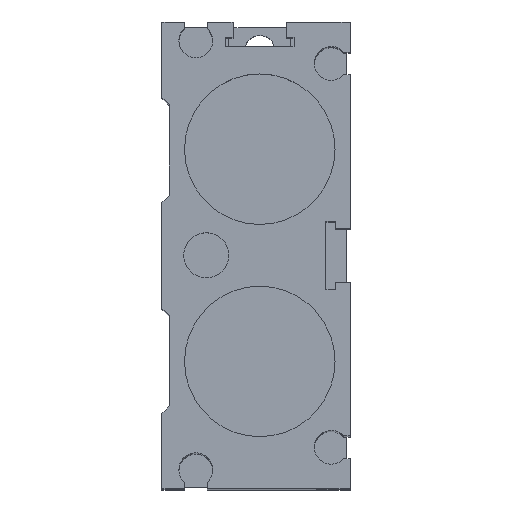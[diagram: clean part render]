
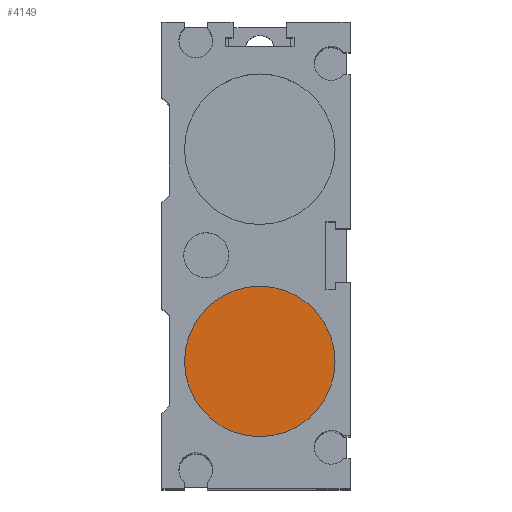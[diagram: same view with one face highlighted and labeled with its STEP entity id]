
A CAD part, top view. The second image highlights one B-rep face of the part: STEP entity #4149.
In plain terms, the highlighted planar face has unit normal (0, 0, 1).
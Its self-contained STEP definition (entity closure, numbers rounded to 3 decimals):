
#4126=CARTESIAN_POINT('',(10.0,-14.1,173.0));
#4127=VERTEX_POINT('',#4126);
#4128=CARTESIAN_POINT('',(0.0,-14.1,173.0));
#4129=DIRECTION('',(0.0,0.0,1.0));
#4130=DIRECTION('',(-1.0,0.0,0.0));
#4131=AXIS2_PLACEMENT_3D('',#4128,#4129,#4130);
#4132=CIRCLE('',#4131,10.0);
#4133=EDGE_CURVE('',#4127,#4127,#4132,.T.);
#4141=CARTESIAN_POINT('',(0.0,-14.1,173.0));
#4142=DIRECTION('',(0.0,0.0,-1.0));
#4143=DIRECTION('',(-1.0,0.0,0.0));
#4144=AXIS2_PLACEMENT_3D('',#4141,#4142,#4143);
#4145=PLANE('',#4144);
#4146=ORIENTED_EDGE('',*,*,#4133,.T.);
#4147=EDGE_LOOP('',(#4146));
#4148=FACE_OUTER_BOUND('',#4147,.T.);
#4149=ADVANCED_FACE('',(#4148),#4145,.F.);
